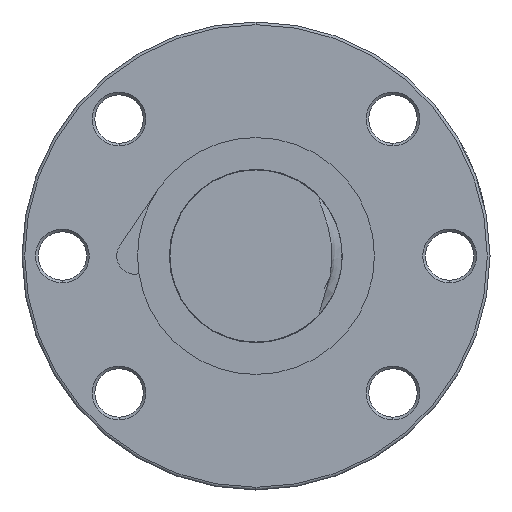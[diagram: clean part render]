
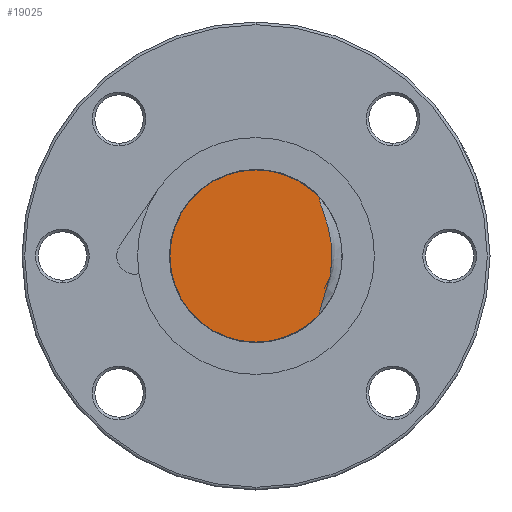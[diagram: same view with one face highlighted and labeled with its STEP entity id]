
A CAD part, left-side view. The second image highlights one B-rep face of the part: STEP entity #19025.
In plain terms, the highlighted planar face has unit normal (-1, 0, 0).
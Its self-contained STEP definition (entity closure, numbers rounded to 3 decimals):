
#612 = CARTESIAN_POINT ( 'NONE',  ( -170., 0., 16. ) ) ;
#637 = FACE_OUTER_BOUND ( 'NONE', #19026, .T. ) ;
#690 = DIRECTION ( 'NONE',  ( 0., 0., -1. ) ) ;
#691 = DIRECTION ( 'NONE',  ( 1., 0., 0. ) ) ;
#692 = CARTESIAN_POINT ( 'NONE',  ( -170., 0., 0. ) ) ;
#693 = AXIS2_PLACEMENT_3D ( 'NONE', #692, #691, #690 ) ;
#694 = PLANE ( 'NONE',  #693 ) ;
#697 = CARTESIAN_POINT ( 'NONE',  ( -170., -13.604, 4.612 ) ) ;
#698 = CARTESIAN_POINT ( 'NONE',  ( -170., -13.796, 3.704 ) ) ;
#699 = CARTESIAN_POINT ( 'NONE',  ( -170., -13.989, 2.32 ) ) ;
#700 = CARTESIAN_POINT ( 'NONE',  ( -170., -14.038, 1.854 ) ) ;
#701 = CARTESIAN_POINT ( 'NONE',  ( -170., -14.102, 0.922 ) ) ;
#702 = CARTESIAN_POINT ( 'NONE',  ( -170., -14.118, 0.458 ) ) ;
#703 = CARTESIAN_POINT ( 'NONE',  ( -170., -14.118, -0.931 ) ) ;
#704 = CARTESIAN_POINT ( 'NONE',  ( -170., -14.054, -1.851 ) ) ;
#705 = CARTESIAN_POINT ( 'NONE',  ( -170., -13.8, -3.681 ) ) ;
#706 = CARTESIAN_POINT ( 'NONE',  ( -170., -13.609, -4.592 ) ) ;
#707 = CARTESIAN_POINT ( 'NONE',  ( -170., -13.124, -6.398 ) ) ;
#708 = CARTESIAN_POINT ( 'NONE',  ( -170., -12.829, -7.284 ) ) ;
#709 = CARTESIAN_POINT ( 'NONE',  ( -170., -12.362, -8.606 ) ) ;
#710 = CARTESIAN_POINT ( 'NONE',  ( -170., -12.202, -9.045 ) ) ;
#711 = CARTESIAN_POINT ( 'NONE',  ( -170., -11.985, -9.71 ) ) ;
#712 = CARTESIAN_POINT ( 'NONE',  ( -170., -11.916, -9.934 ) ) ;
#713 = CARTESIAN_POINT ( 'NONE',  ( -170., -11.833, -10.273 ) ) ;
#714 = CARTESIAN_POINT ( 'NONE',  ( -170., -11.808, -10.386 ) ) ;
#715 = CARTESIAN_POINT ( 'NONE',  ( -170., -11.771, -10.616 ) ) ;
#716 = CARTESIAN_POINT ( 'NONE',  ( -170., -11.758, -10.733 ) ) ;
#717 = CARTESIAN_POINT ( 'NONE',  ( -170., -11.758, -10.851 ) ) ;
#719 = B_SPLINE_CURVE_WITH_KNOTS ( 'NONE', 3,
 ( #717, #716, #715, #714, #713, #712, #711, #710, #709, #708, #707, #706, #705, #704, #703, #702, #701, #700, #699, #698, #697, #751, #750, #749, #748, #1025, #1024, #1023, #953, #952, #951, #950 ),
 .UNSPECIFIED., .F., .F.,
 ( 4, 2, 2, 2, 2, 2, 2, 2, 2, 2, 2, 2, 2, 2, 2, 4 ),
 ( 0.006, 0.006, 0.007, 0.007, 0.009, 0.011, 0.014, 0.017, 0.018, 0.02, 0.022, 0.025, 0.026, 0.027, 0.027, 0.028 ),
 .UNSPECIFIED. ) ;
#748 = CARTESIAN_POINT ( 'NONE',  ( -170., -12.202, 9.043 ) ) ;
#749 = CARTESIAN_POINT ( 'NONE',  ( -170., -12.362, 8.604 ) ) ;
#750 = CARTESIAN_POINT ( 'NONE',  ( -170., -12.828, 7.286 ) ) ;
#751 = CARTESIAN_POINT ( 'NONE',  ( -170., -13.122, 6.403 ) ) ;
#950 = CARTESIAN_POINT ( 'NONE',  ( -170., -11.758, 10.851 ) ) ;
#951 = CARTESIAN_POINT ( 'NONE',  ( -170., -11.758, 10.731 ) ) ;
#952 = CARTESIAN_POINT ( 'NONE',  ( -170., -11.772, 10.613 ) ) ;
#953 = CARTESIAN_POINT ( 'NONE',  ( -170., -11.809, 10.382 ) ) ;
#974 = CARTESIAN_POINT ( 'NONE',  ( -170., -11.758, -10.851 ) ) ;
#1023 = CARTESIAN_POINT ( 'NONE',  ( -170., -11.834, 10.268 ) ) ;
#1024 = CARTESIAN_POINT ( 'NONE',  ( -170., -11.918, 9.929 ) ) ;
#1025 = CARTESIAN_POINT ( 'NONE',  ( -170., -11.986, 9.707 ) ) ;
#1063 = CARTESIAN_POINT ( 'NONE',  ( -170., 0., -16. ) ) ;
#1064 = DIRECTION ( 'NONE',  ( 0., 1., 0. ) ) ;
#1065 = DIRECTION ( 'NONE',  ( 1., 0., 0. ) ) ;
#1066 = AXIS2_PLACEMENT_3D ( 'NONE', #1072, #1065, #1064 ) ;
#1067 = CIRCLE ( 'NONE', #1066, 16. ) ;
#1072 = CARTESIAN_POINT ( 'NONE',  ( -170., 0., 0. ) ) ;
#1195 = CARTESIAN_POINT ( 'NONE',  ( -170., -11.758, 10.851 ) ) ;
#1196 = DIRECTION ( 'NONE',  ( 0., 1., 0. ) ) ;
#1197 = DIRECTION ( 'NONE',  ( 1., 0., 0. ) ) ;
#1198 = CARTESIAN_POINT ( 'NONE',  ( -170., 0., 0. ) ) ;
#1199 = AXIS2_PLACEMENT_3D ( 'NONE', #1198, #1197, #1196 ) ;
#1203 = CIRCLE ( 'NONE', #1199, 16. ) ;
#2071 = DIRECTION ( 'NONE',  ( 0., 1., 0. ) ) ;
#2072 = DIRECTION ( 'NONE',  ( 1., 0., 0. ) ) ;
#2073 = CARTESIAN_POINT ( 'NONE',  ( -170., 0., 0. ) ) ;
#2074 = AXIS2_PLACEMENT_3D ( 'NONE', #2073, #2072, #2071 ) ;
#2075 = CIRCLE ( 'NONE', #2074, 16. ) ;
#19016 = VERTEX_POINT ( 'NONE', #612 ) ;
#19025 = ADVANCED_FACE ( 'NONE', ( #637 ), #694, .F. ) ;
#19026 = EDGE_LOOP ( 'NONE', ( #19027, #19028, #19030, #19031 ) ) ;
#19027 = ORIENTED_EDGE ( 'NONE', *, *, #19216, .F. ) ;
#19028 = ORIENTED_EDGE ( 'NONE', *, *, #19029, .T. ) ;
#19029 = EDGE_CURVE ( 'NONE', #19065, #19098, #719, .T. ) ;
#19030 = ORIENTED_EDGE ( 'NONE', *, *, #19097, .F. ) ;
#19031 = ORIENTED_EDGE ( 'NONE', *, *, #19113, .F. ) ;
#19065 = VERTEX_POINT ( 'NONE', #974 ) ;
#19097 = EDGE_CURVE ( 'NONE', #19016, #19098, #1203, .T. ) ;
#19098 = VERTEX_POINT ( 'NONE', #1195 ) ;
#19113 = EDGE_CURVE ( 'NONE', #19114, #19016, #1067, .T. ) ;
#19114 = VERTEX_POINT ( 'NONE', #1063 ) ;
#19216 = EDGE_CURVE ( 'NONE', #19065, #19114, #2075, .T. ) ;
